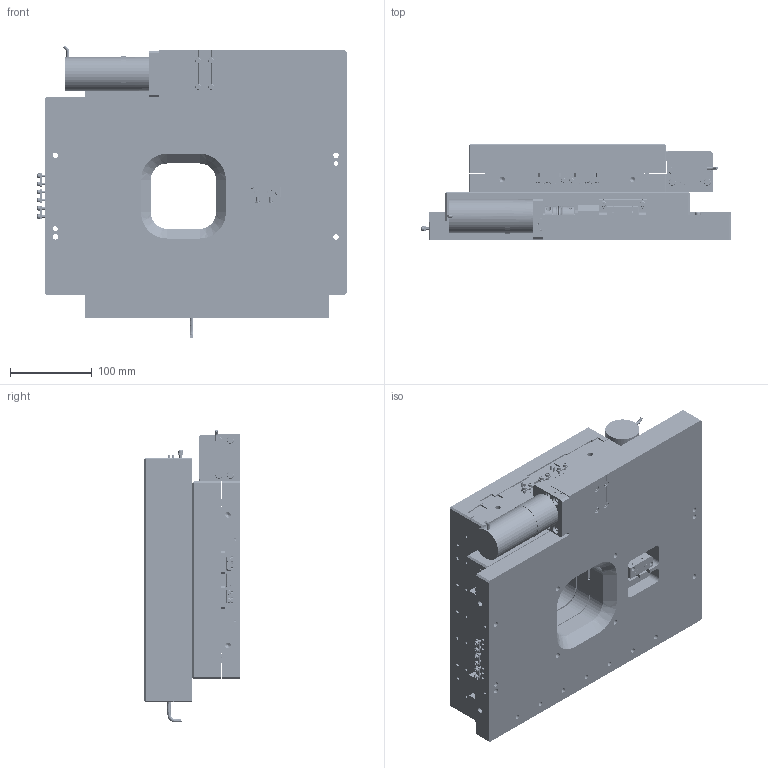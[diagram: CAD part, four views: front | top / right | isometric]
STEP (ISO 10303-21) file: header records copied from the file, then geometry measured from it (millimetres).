
FILE_DESCRIPTION((''),'2;1');
FILE_NAME('782475_002_26_XY_SAMP_SW0001','2026-06-02T13:20:15',('Henkel'),(''),'CREO PARAMETRIC BY PTC INC, 2025123','CREO PARAMETRIC BY PTC INC, 2025123','');
FILE_SCHEMA(('AP242_MANAGED_MODEL_BASED_3D_ENGINEERING_MIM_LF { 1 0 10303 442 1 1 4 }'));
Products named in the file (2): 782475_002_26_XY_SAMP_SW0001; AL_ALUMINIUM
Bounding box: 379 x 118 x 359.1 mm (x, y, z)
Volume: 9047222.7 mm3; surface area: 699203.4 mm2
Topology: 1 solids, 5 shells, 4842 faces, 12591 edges, 7992 vertices
Faces by surface type: plane 2804, cylinder 1546, cone 432, torus 56, bspline 4
Entity records: 266080 total; most frequent: CARTESIAN_POINT 78872, ORIENTED_EDGE 24790, DIRECTION 24721, PRESENTATION_STYLE_ASSIGNMENT 16597, STYLED_ITEM 12400, CURVE_STYLE 12399, EDGE_CURVE 12395, AXIS2_PLACEMENT_3D 8370
